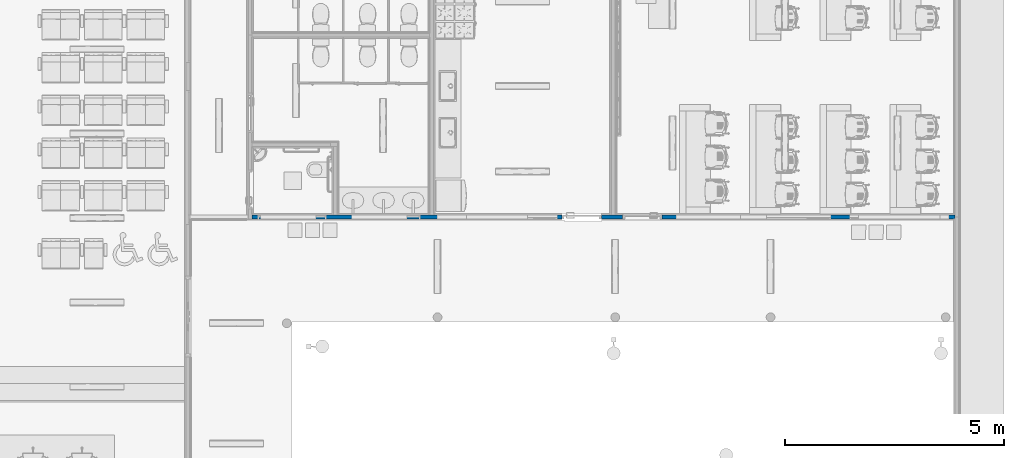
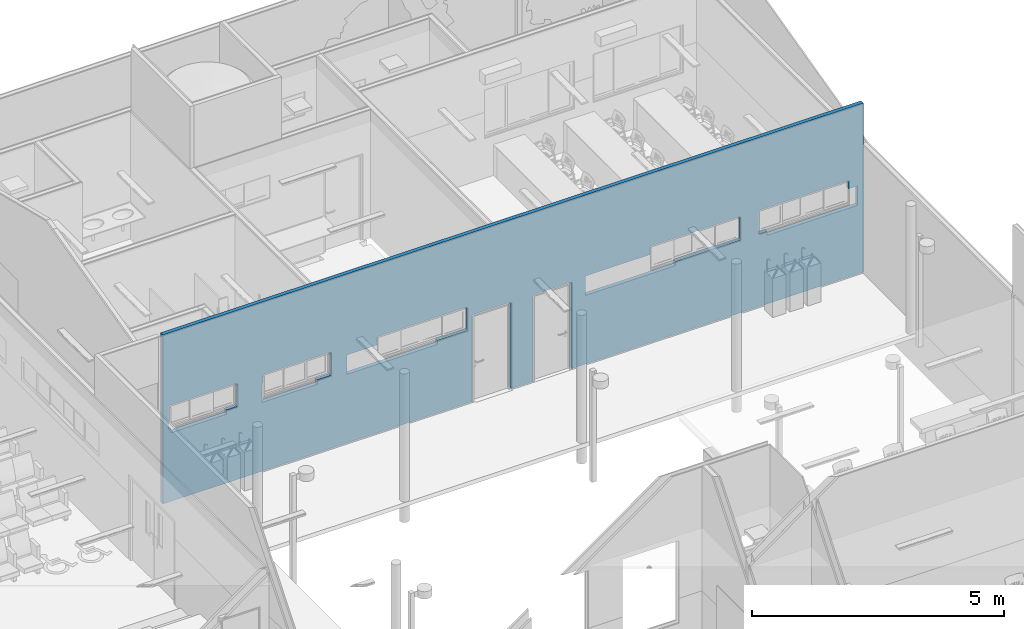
# One storey, part 37 of 155: 1 wall, 12 openings.
"""IFC2X3 building model written with IfcOpenShell, lengths in metres."""

from ifc_helpers import new_model, entity, si_unit, converted_unit, derived_unit, direction, frame, frame_2d, origin, origin_2d_with_axis, place, context, subcontext, project, spatial, rectangle, extrude, material, layer, layer_set, layer_usage, type_object, element, save


model = new_model("IFC2X3")

# Units and contexts
model_context = context("Model", 3, precision=1e-05, world=origin(), true_north=direction((6.12303176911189e-17, 1.0)))
body_context = subcontext(model_context, "Body", "Model", "MODEL_VIEW")
ifc_project = project(units=[si_unit("LENGTHUNIT", "METRE"), si_unit("AREAUNIT", "SQUARE_METRE"), si_unit("VOLUMEUNIT", "CUBIC_METRE"), converted_unit("PLANEANGLEUNIT", "DEGREE", entity("IfcRatioMeasure", 0.0174532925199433), si_unit("PLANEANGLEUNIT", "RADIAN"), dimensions=[0, 0, 0, 0, 0, 0, 0]), si_unit("MASSUNIT", "GRAM", prefix="KILO"), derived_unit("MASSDENSITYUNIT", [(si_unit("MASSUNIT", "GRAM", prefix="KILO"), 1), (si_unit("LENGTHUNIT", "METRE"), -3)]), si_unit("TIMEUNIT", "SECOND"), si_unit("FREQUENCYUNIT", "HERTZ"), si_unit("THERMODYNAMICTEMPERATUREUNIT", "DEGREE_CELSIUS"), derived_unit("THERMALTRANSMITTANCEUNIT", [(si_unit("MASSUNIT", "GRAM", prefix="KILO"), 1), (si_unit("THERMODYNAMICTEMPERATUREUNIT", "KELVIN"), -1), (si_unit("TIMEUNIT", "SECOND"), -3)]), derived_unit("VOLUMETRICFLOWRATEUNIT", [(si_unit("LENGTHUNIT", "METRE"), 3), (si_unit("TIMEUNIT", "SECOND"), -1)]), si_unit("ELECTRICCURRENTUNIT", "AMPERE"), si_unit("ELECTRICVOLTAGEUNIT", "VOLT"), si_unit("POWERUNIT", "WATT"), si_unit("FORCEUNIT", "NEWTON", prefix="KILO"), si_unit("ILLUMINANCEUNIT", "LUX"), si_unit("LUMINOUSFLUXUNIT", "LUMEN"), si_unit("LUMINOUSINTENSITYUNIT", "CANDELA"), derived_unit("USERDEFINED", [(si_unit("MASSUNIT", "GRAM", prefix="KILO"), -1), (si_unit("LENGTHUNIT", "METRE"), -2), (si_unit("TIMEUNIT", "SECOND"), 3), (si_unit("LUMINOUSFLUXUNIT", "LUMEN"), 1)]), derived_unit("LINEARVELOCITYUNIT", [(si_unit("LENGTHUNIT", "METRE"), 1), (si_unit("TIMEUNIT", "SECOND"), -1)]), si_unit("PRESSUREUNIT", "PASCAL"), derived_unit("USERDEFINED", [(si_unit("LENGTHUNIT", "METRE"), -2), (si_unit("MASSUNIT", "GRAM", prefix="KILO"), 1), (si_unit("TIMEUNIT", "SECOND"), -2)])], contexts=[model_context])

# Site, building, storey
site_placement = place(None, frame((26.9889013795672, -17.5624287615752, 0.0)))
site = spatial("IfcSite", under=ifc_project, at=site_placement, Name="Default", CompositionType="ELEMENT")
building_placement = place(site_placement, origin())
building = spatial("IfcBuilding", under=site, at=building_placement, Name="C. C. L. Monsenhor Antônio Sampaio", CompositionType="ELEMENT")
storey_placement = place(building_placement, frame((0.0, 0.0, 1.19999999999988)))
storey = spatial("IfcBuildingStorey", under=building, at=storey_placement, Name="Nível 1.2", CompositionType="ELEMENT", Elevation=1.19999999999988)

# Wall, openings
ifc_material = material(Name="ALVENARIA")
ifc_layer = layer(ifc_material, 0.09)
ifc_layer_set = layer_set([ifc_layer], Name="Parede básica:ENucleo parede 15cm")
ifc_layer_usage = layer_usage(ifc_layer_set, "AXIS2", "POSITIVE", -0.045)
wall_type = type_object("IfcWallType", Name="Parede básica:ENucleo parede 15cm", PredefinedType="STANDARD", material=ifc_layer_set)
wall_placement = place(storey_placement, frame((-4.45055229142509, -16.8280663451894, 0.0)))
wall = element("IfcWallStandardCase", 1, at=wall_placement, inside=storey, type_object=wall_type, material=ifc_layer_usage, Name="Parede básica:ENucleo parede 15cm", ObjectType="Parede básica:ENucleo parede 15cm", context=body_context, shape_type="SweptSolid", body=[
    extrude(rectangle(XDim=16.0599999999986, YDim=0.0900000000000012, at=frame_2d((8.02999999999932, 6.59194920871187e-17), x_axis=(-1.0, 0.0))), origin(), (0.0, 0.0, 1.0), 4.10000000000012),
])
opening_1_placement = place(wall_placement, frame((7.08141826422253, -0.0449999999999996, 0.0)))
element("IfcOpeningElement", 2, at=opening_1_placement, cuts=wall, Name="Porta levantamento:90 x 211 AZUL:1", ObjectType="Opening", context=body_context, shape_type="SweptSolid", body=[
    extrude(rectangle(XDim=2.09999999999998, YDim=0.9, at=frame_2d((1.04999999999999, 0.45), x_axis=(1.0, 0.0))), frame((0.0, 0.0, 0.0), z_axis=(0.0, 1.0, 0.0), x_axis=(0.0, 0.0, 1.0)), (0.0, 0.0, 1.0), 0.09),
])
opening_2_placement = place(wall_placement, frame((8.47141826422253, -0.0449999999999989, 0.0)))
element("IfcOpeningElement", 3, at=opening_2_placement, cuts=wall, Name="Porta levantamento:90 x 211 AZUL:1", ObjectType="Opening", context=body_context, shape_type="SweptSolid", body=[
    extrude(rectangle(XDim=2.09999999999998, YDim=0.9, at=frame_2d((1.04999999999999, 0.450000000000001), x_axis=(1.0, 0.0))), frame((0.0, 0.0, 0.0), z_axis=(0.0, 1.0, 0.0), x_axis=(0.0, 0.0, 1.0)), (0.0, 0.0, 1.0), 0.09),
])
opening_3_placement = place(wall_placement, frame((1.70000268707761, 0.0449999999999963, 1.76500000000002)))
element("IfcOpeningElement", 4, at=opening_3_placement, cuts=wall, Name="Janela 150x1:150 x 50:1", ObjectType="Opening", context=body_context, shape_type="SweptSolid", body=[
    extrude(rectangle(XDim=0.570000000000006, YDim=1.56999999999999, at=frame_2d((0.285000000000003, 0.784999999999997), x_axis=(1.0, 0.0))), frame((0.0, 0.0, 0.0), z_axis=(0.0, -1.0, 0.0), x_axis=(0.0, 0.0, 1.0)), (0.0, 0.0, 1.0), 0.09),
])
opening_4_placement = place(wall_placement, frame((4.45055229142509, 16.8280663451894, 0.0)))
element("IfcOpeningElement", 5, at=opening_4_placement, cuts=wall, Name="Parede básica:ENucleo parede 15cm", ObjectType="Opening", context=body_context, shape_type="SweptSolid", body=[
    extrude(rectangle(XDim=0.47000000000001, YDim=1.26999999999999, at=frame_2d((2.77555756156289e-16, 0.0), x_axis=(0.0, 1.0))), frame((-3.6255522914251, -18.3070663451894, 1.90000000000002), z_axis=(0.0, 1.0, 0.0), x_axis=(-1.0, 0.0, 0.0)), (0.0, 0.0, 1.0), 3.048),
])
opening_5_placement = place(wall_placement, frame((3.8500053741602, 0.0449999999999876, 1.76500000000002)))
element("IfcOpeningElement", 6, at=opening_5_placement, cuts=wall, Name="Janela 150x1:150 x 50:1", ObjectType="Opening", context=body_context, shape_type="SweptSolid", body=[
    extrude(rectangle(XDim=0.570000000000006, YDim=1.56999999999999, at=frame_2d((0.285000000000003, 0.784999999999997), x_axis=(1.0, 0.0))), frame((0.0, 0.0, 0.0), z_axis=(0.0, -1.0, 0.0), x_axis=(0.0, 0.0, 1.0)), (0.0, 0.0, 1.0), 0.09),
])
opening_6_placement = place(wall_placement, frame((4.45055229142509, 16.8280663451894, 0.0)))
element("IfcOpeningElement", 7, at=opening_6_placement, cuts=wall, Name="Parede básica:ENucleo parede 15cm", ObjectType="Opening", context=body_context, shape_type="SweptSolid", body=[
    extrude(rectangle(XDim=0.47000000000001, YDim=1.26999999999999, at=frame_2d((2.22044604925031e-16, 0.0), x_axis=(0.0, 1.0))), frame((-1.5455522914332, -18.3070663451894, 1.90000000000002), z_axis=(0.0, 1.0, 0.0), x_axis=(-1.0, 0.0, 0.0)), (0.0, 0.0, 1.0), 3.048),
])
opening_7_placement = place(wall_placement, frame((6.97641826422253, 0.0449999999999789, 1.76500000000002)))
element("IfcOpeningElement", 8, at=opening_7_placement, cuts=wall, Name="Janela 200x110:200 x 50:1", ObjectType="Opening", context=body_context, shape_type="SweptSolid", body=[
    extrude(rectangle(XDim=0.570000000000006, YDim=2.07, at=frame_2d((0.285000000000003, 1.035), x_axis=(1.0, 0.0))), frame((0.0, 0.0, 0.0), z_axis=(0.0, -1.0, 0.0), x_axis=(0.0, 0.0, 1.0)), (0.0, 0.0, 1.0), 0.09),
])
opening_8_placement = place(wall_placement, frame((4.45055229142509, 16.8280663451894, 0.0)))
element("IfcOpeningElement", 9, at=opening_8_placement, cuts=wall, Name="Parede básica:ENucleo parede 15cm", ObjectType="Opening", context=body_context, shape_type="SweptSolid", body=[
    extrude(rectangle(XDim=0.470000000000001, YDim=2.06999999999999, at=frame_2d((0.0, 0.0), x_axis=(0.0, 1.0))), frame((0.811164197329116, -18.3070663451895, 1.90000000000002), z_axis=(0.0, 1.0, 0.0), x_axis=(-1.0, 0.0, 0.0)), (0.0, 0.0, 1.0), 3.048),
])
opening_9_placement = place(wall_placement, frame((15.7251682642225, 0.0449999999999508, 1.76500000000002)))
element("IfcOpeningElement", 10, at=opening_9_placement, cuts=wall, Name="Janela 200x110:200 x 50:1", ObjectType="Opening", context=body_context, shape_type="SweptSolid", body=[
    extrude(rectangle(XDim=0.570000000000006, YDim=2.07, at=frame_2d((0.285000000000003, 1.035), x_axis=(1.0, 0.0))), frame((0.0, 0.0, 0.0), z_axis=(0.0, -1.0, 0.0), x_axis=(0.0, 0.0, 1.0)), (0.0, 0.0, 1.0), 0.09),
])
opening_10_placement = place(wall_placement, frame((4.45055229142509, 16.8280663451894, 0.0)))
element("IfcOpeningElement", 11, at=opening_10_placement, cuts=wall, Name="Parede básica:ENucleo parede 15cm", ObjectType="Opening", context=body_context, shape_type="SweptSolid", body=[
    extrude(rectangle(XDim=0.470000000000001, YDim=2.06999999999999, at=origin_2d_with_axis()), frame((10.4391494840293, -18.3970663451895, 1.90000000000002), z_axis=(0.0, 1.0, 0.0), x_axis=(0.0, 0.0, 1.0)), (0.0, 0.0, 1.0), 3.048),
])
opening_11_placement = place(wall_placement, frame((13.2351682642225, 0.0449999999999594, 1.76500000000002)))
element("IfcOpeningElement", 12, at=opening_11_placement, cuts=wall, Name="Janela 200x110:200 x 50:1", ObjectType="Opening", context=body_context, shape_type="SweptSolid", body=[
    extrude(rectangle(XDim=0.570000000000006, YDim=2.07, at=frame_2d((0.285000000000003, 1.035), x_axis=(1.0, 0.0))), frame((0.0, 0.0, 0.0), z_axis=(0.0, -1.0, 0.0), x_axis=(0.0, 0.0, 1.0)), (0.0, 0.0, 1.0), 0.09),
])
opening_12_placement = place(wall_placement, frame((4.45055229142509, 16.8280663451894, 0.0)))
element("IfcOpeningElement", 13, at=opening_12_placement, cuts=wall, Name="Parede básica:ENucleo parede 15cm", ObjectType="Opening", context=body_context, shape_type="SweptSolid", body=[
    extrude(rectangle(XDim=0.470000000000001, YDim=2.06999999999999, at=frame_2d((0.0, -4.44089209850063e-16), x_axis=(1.0, 0.0))), frame((6.26914948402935, -18.3970663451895, 1.90000000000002), z_axis=(0.0, 1.0, 0.0), x_axis=(0.0, 0.0, 1.0)), (0.0, 0.0, 1.0), 3.048),
])

save(model, "model.ifc")
